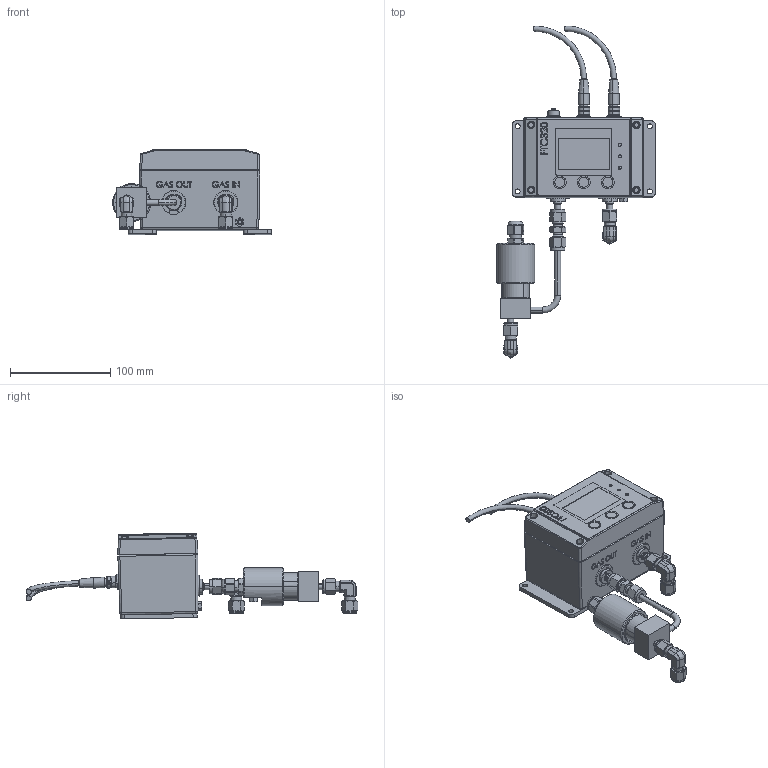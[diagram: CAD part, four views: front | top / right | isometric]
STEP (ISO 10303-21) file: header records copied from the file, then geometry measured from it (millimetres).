
FILE_DESCRIPTION (( 'STEP AP214' ), '1' );
FILE_NAME ('A126B900V003-2.STEP', '2025-07-02T19:52:32', ( '' ), ( '' ), 'SwSTEP 2.0', 'SolidWorks 2019', '' );
FILE_SCHEMA (( 'AUTOMOTIVE_DESIGN' ));
Length unit declared in the file: millimetre
Products named in the file (1): A126B900V003-2
Bounding box: 158.5 x 331.24 x 85.64 mm (x, y, z)
Surface area: 102217.1 mm2 (no closed solid volume)
Topology: 0 solids, 70 shells, 973 faces, 3328 edges, 2376 vertices
Faces by surface type: cylinder 320, plane 317, cone 237, bspline 78, torus 20, sphere 1
Entity records: 53796 total; most frequent: CARTESIAN_POINT 15867, DIRECTION 5450, ORIENTED_EDGE 5192, EDGE_CURVE 3321, VERTEX_POINT 2375, AXIS2_PLACEMENT_3D 2033, VECTOR 1384, LINE 1384
